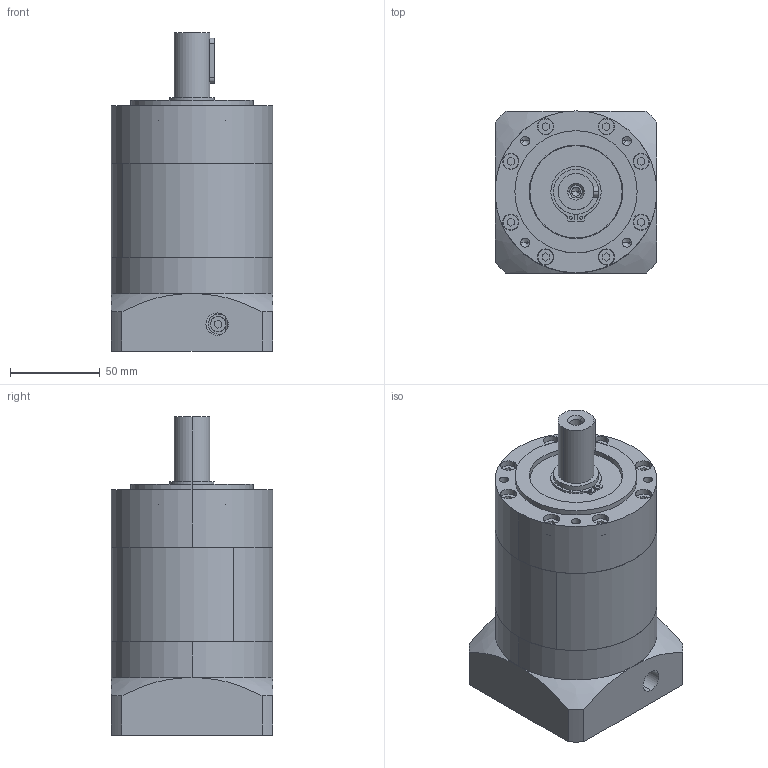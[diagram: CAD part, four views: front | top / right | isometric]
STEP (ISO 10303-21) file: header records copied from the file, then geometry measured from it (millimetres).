
FILE_DESCRIPTION (( 'STEP AP203' ), '1' );
FILE_NAME ('PLE090-L2-20-86-14x38.STEP', '2020-11-28T09:36:45', ( 'USER-' ), ( 'MS' ), 'SwSTEP 2.0', 'SolidWorks 2018', '' );
FILE_SCHEMA (( 'CONFIG_CONTROL_DESIGN' ));
Length unit declared in the file: millimetre
Products named in the file (8): PRF90 _________________^PLE090-L2(2)_PLE090-L2; PRF90 ___w___D6-90 D7-19 ____^PLE090-L2(2)_PLE090-L2; __________ M5__20^PLE090-L2(2)_PLE090-L2; ______ 6x6x25^PLE090-L2(2)_PLE090-L2; ____-6007 35x62x14^PLE090-L2(2)_PLE090-L2; PRF90 ______-_____D8-70 D9-90 D10-M5 A2-90 L4-32 L6-47(32+15) L7-6 R-59.5____^PLE090-L2(2)_PLE090-L2; PRL90 ___w__^PLE090-L2(2)_PLE090-L2; PLE090-L2-20-86-14x38
Assembly tree (7 placements, depth 2):
  PLE090-L2-20-86-14x38
    PRF90 _________________^PLE090-L2(2)_PLE090-L2
    PRF90 ___w___D6-90 D7-19 ____^PLE090-L2(2)_PLE090-L2
    __________ M5__20^PLE090-L2(2)_PLE090-L2
    ______ 6x6x25^PLE090-L2(2)_PLE090-L2
    ____-6007 35x62x14^PLE090-L2(2)_PLE090-L2
    PRF90 ______-_____D8-70 D9-90 D10-M5 A2-90 L4-32 L6-47(32+15) L7-6 R-59.5____^PLE090-L2(2)_PLE090-L2
    PRL90 ___w__^PLE090-L2(2)_PLE090-L2
Bounding box: 90 x 90 x 177 mm (x, y, z)
Volume: 850264.5 mm3; surface area: 145337.4 mm2
Topology: 7 solids, 7 shells, 565 faces, 1569 edges, 993 vertices
Faces by surface type: plane 180, cylinder 179, sphere 132, torus 52, cone 22
Entity records: 23575 total; most frequent: CARTESIAN_POINT 8789, ORIENTED_EDGE 2970, DIRECTION 2899, EDGE_CURVE 1485, AXIS2_PLACEMENT_3D 1227, VERTEX_POINT 971, EDGE_LOOP 666, CIRCLE 652
